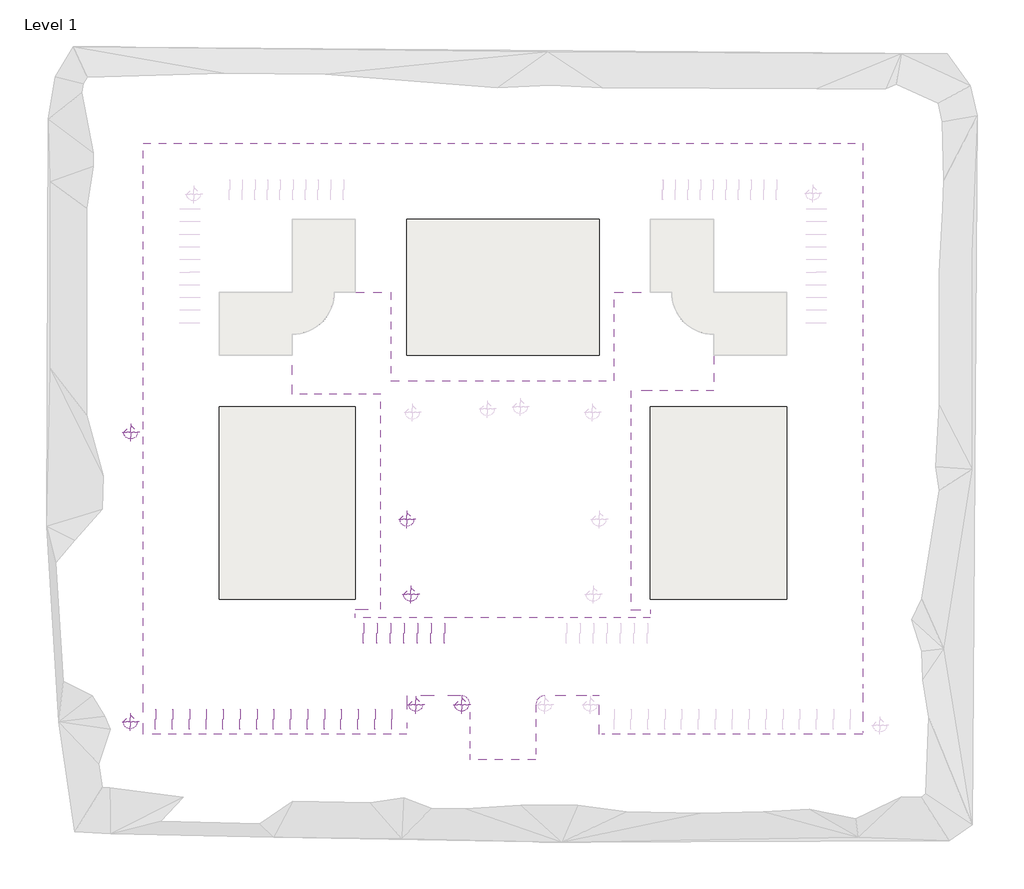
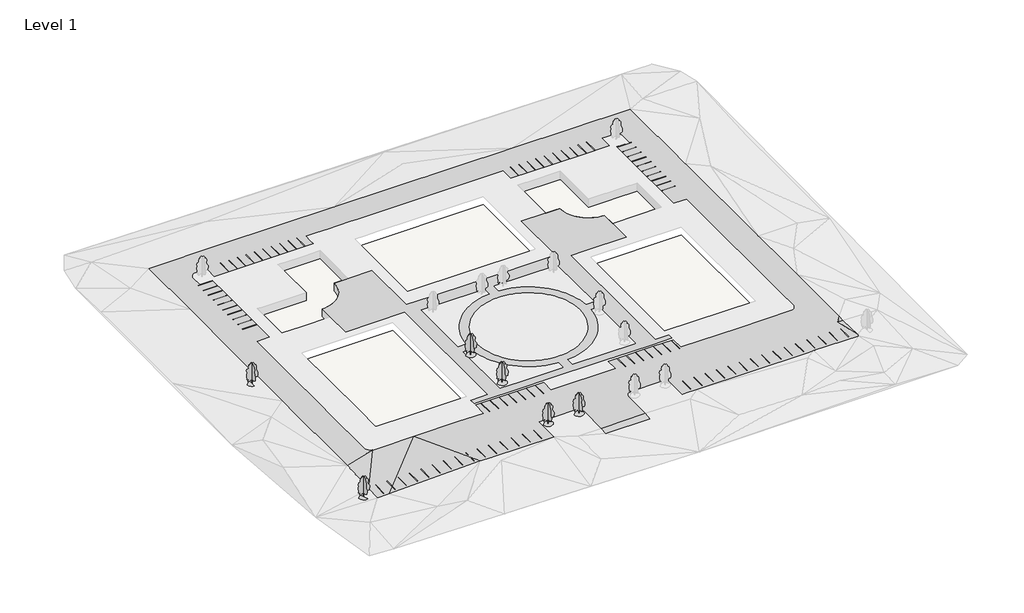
# One storey, part 1 of 3: 24 proxies, 6 geographic elements, 5 slabs.
"""IFC4 building model written with IfcOpenShell, lengths in millimetres."""

from ifc_helpers import new_model, si_unit, point, frame, frame_2d, origin, place, context, project, spatial, polyline, circle_curve, trimmed, segment, composite_curve, outline, extrude, triangles, transform, mapped, element, save
from components import m_parking_space_4800_x_2400mm_90_deg_2b7ae786, m_parking_space_4800_x_2400mm_90_deg_cf846cf7, m_rpc_tree_deciduous_red_ash_7_6_meters_40acba24

model = new_model("IFC4")

# Units and contexts
model_context = context("Model", 3, world=origin())
ifc_project = project(units=[si_unit("LENGTHUNIT", "METRE", prefix="MILLI")], contexts=[model_context])

# Site, building, storey
site = spatial("IfcSite", under=ifc_project)
building = spatial("IfcBuilding", under=site)
storey = spatial("IfcBuildingStorey", under=building, Name="Level 1", Elevation=0.0)

# Proxies
placement = place(None, origin())
element("IfcBuildingElementProxy", 1, Name="Building Element Proxy", at=placement, inside=storey, context=model_context, shape_type="Tessellation", body=[
    triangles([(-85535.6813232, -72322.6413208, 1983.1879601), (-81381.8232422, -72322.6413208, 2006.5802822), (-48930.6040283, -72322.6413208, 3049.9998779), (-45175.5681152, -72322.6413208, 3049.9998779), (-22999.6798462, -72322.6413208, 3049.9998779), (-22999.6798462, -69598.8029297, 3049.9998779), (-22999.6798462, -63177.6413818, 3049.9998779), (-16508.3272339, -63177.6413818, 3049.9998779), (-10154.9429443, -63177.6413818, 3049.9998779), (-9734.4715164, -63219.0574585, 3049.9998779), (-9330.1595673, -63341.7011353, 3049.9998779), (-8957.5433578, -63540.8703735, 3049.9998779), (-8630.942363, -63808.9051758, 3049.9998779), (-8362.9081421, -64135.5038452, 3049.9998779), (-8163.7406479, -64508.1229614, 3049.9998779), (-8041.093483, -64912.4331665, 3049.9998779), (-7999.6808945, -65332.9051758, 3049.9998779), (-7999.6808945, -75662.4746704, 3049.9998779), (-7999.6808945, -78418.6459717, 2673.7301125), (7616.3188293, -78418.6459717, 2673.7301125), (7616.3188293, -75662.4746704, 3049.9998779), (7616.3188293, -65332.9051758, 3049.9998779), (7657.7319992, -64912.4331665, 3049.9998779), (7780.3785828, -64508.1229614, 3049.9998779), (7979.546077, -64135.5038452, 3049.9998779), (8247.5802979, -63808.9051758, 3049.9998779), (8574.1812927, -63540.8703735, 3049.9998779), (8946.7975021, -63341.7011353, 3049.9998779), (9351.1100327, -63219.0574585, 3049.9998779), (9771.5802979, -63177.6413818, 3049.9998779), (19669.4412598, -63177.6413818, 3049.9998779), (22616.3195251, -63177.6413818, 3049.9998779), (22616.3195251, -72322.6413208, 3049.9998779), (23909.6359314, -72322.6413208, 3049.9998779), (27666.706604, -72322.6413208, 3049.9998779), (66812.228833, -72322.6413208, 3049.9998779), (69215.7286377, -72322.6413208, 3049.9998779), (85152.3186768, -72322.6413208, 3049.9998779), (85152.3186768, -71605.2292969, 3049.9998779), (85152.3186768, -62436.5610352, 2858.9560158), (85152.3186768, -60490.0798462, 3049.9998779), (85152.3186768, -53151.4626709, 3049.9998779), (85152.3186768, -34557.1511353, 3049.9998779), (85152.3186768, -26828.7577515, 3049.9998779), (85152.3186768, -10563.9423981, 3049.9998779), (85152.3186768, 34057.6467407, 3049.9998779), (85152.3186768, 67885.3586792, 3049.9998779), (43350.9678589, 67885.3586792, 3049.9998779), (-19981.6152283, 67885.3586792, 3049.9998779), (-60150.6587036, 67885.3586792, 3049.9998779), (-85535.6813232, 67885.3586792, 3049.9998779), (-85535.6813232, 42777.6354126, 3049.9998779), (-85535.6813232, 17541.3572021, 3049.9998779), (-85535.6813232, -14016.0200592, 3049.9998779), (-85535.6813232, -53825.1843384, 3049.9998779), (-85535.6813232, -67074.5988647, 2206.9487206), (-76390.6813843, 17541.3572021, 3049.9998779), (-71818.6813843, 17541.3572021, 3049.9998779), (-71818.6813843, 28075.6955933, 3049.9998779), (-71818.6813843, 44745.1385742, 3049.9998779), (-71818.6813843, 52541.3557251, 3049.9998779), (-75664.1257324, 52541.3557251, 3049.9998779), (-76390.6813843, 52541.3557251, 3049.9998779), (-76390.6813843, 56585.0949463, 3049.9998779), (-76349.2699585, 57005.5669556, 3049.9998779), (-76226.6216309, 57409.8771606, 3049.9998779), (-76027.4523926, 57782.4962769, 3049.9998779), (-75759.4175903, 58109.0949463, 3049.9998779), (-75432.8189209, 58377.1297485, 3049.9998779), (-75060.2044556, 58576.2989868, 3049.9998779), (-74655.8895996, 58698.9426636, 3049.9998779), (-74235.4175903, 58740.3587402, 3049.9998779), (-70191.68302, 58740.3587402, 3049.9998779), (-70191.68302, 57954.0206909, 3049.9998779), (-70191.68302, 54168.3587402, 3049.9998779), (-67067.1993164, 54168.3587402, 3049.9998779), (-37842.8319763, 54168.3587402, 3049.9998779), (-35191.6798462, 54168.3587402, 3049.9998779), (-35191.6798462, 56204.3786499, 3049.9998779), (-35191.6798462, 58740.3587402, 3049.9998779), (-31889.525592, 58740.3587402, 3049.9998779), (-27301.2963501, 58740.3587402, 3049.9998779), (-19739.2625793, 58740.3587402, 3049.9998779), (-17214.9375916, 58740.3587402, 3049.9998779), (34808.3195251, 58740.3587402, 3049.9998779), (34808.3195251, 54168.3587402, 3049.9998779), (41448.958374, 54168.3587402, 3049.9998779), (50660.0054443, 54168.3587402, 3049.9998779), (60301.2448608, 54168.3587402, 3049.9998779), (69808.3203735, 54168.3587402, 3049.9998779), (69808.3203735, 58740.3587402, 3049.9998779), (73852.0595947, 58740.3587402, 3049.9998779), (74272.5269531, 58698.9426636, 3049.9998779), (74676.8418091, 58576.2989868, 3049.9998779), (75049.4562744, 58377.1297485, 3049.9998779), (75376.0595947, 58109.0949463, 3049.9998779), (75644.0897461, 57782.4962769, 3049.9998779), (75843.2589844, 57409.8771606, 3049.9998779), (75965.907312, 57005.5669556, 3049.9998779), (76007.3187378, 56585.0949463, 3049.9998779), (76007.3187378, 52541.3557251, 3049.9998779), (71435.3187378, 52541.3557251, 3049.9998779), (71435.3187378, 45158.1180176, 3049.9998779), (71435.3187378, 17541.3572021, 3049.9998779), (76007.3187378, 17541.3572021, 3049.9998779), (76007.3187378, 6598.6321106, 3049.9998779), (76007.3187378, -34066.0741333, 3049.9998779), (76007.3187378, -40266.6444946, 3049.9998779), (76007.3187378, -48111.3796143, 3049.9998779), (75965.907312, -48531.8516235, 3049.9998779), (75843.2589844, -48936.1618286, 3049.9998779), (75644.0897461, -49308.7809448, 3049.9998779), (75376.0595947, -49635.3796143, 3049.9998779), (75049.4562744, -49903.4144165, 3049.9998779), (74676.8418091, -50102.5836548, 3049.9998779), (74272.5269531, -50225.2319824, 3049.9998779), (73852.0595947, -50266.6434082, 3049.9998779), (55536.4473267, -50266.6434082, 3049.9998779), (34808.3195251, -50266.6434082, 3049.9998779), (34808.3195251, -45694.6434082, 3049.9998779), (27601.8896301, -45694.6434082, 3049.9998779), (14380.2350372, -45694.6434082, 3049.9998779), (11808.3187683, -45694.6434082, 3049.9998779), (11808.3187683, -50266.6434082, 3049.9998779), (-11191.6808258, -50266.6434082, 3049.9998779), (-11191.6808258, -45694.6434082, 3049.9998779), (-16971.6419769, -45694.6434082, 3049.9998779), (-35191.6798462, -45694.6434082, 3049.9998779), (-35191.6798462, -50694.6405396, 3049.9998779), (-44268.6885864, -50694.6405396, 3049.9998779), (-60146.5705811, -50694.6405396, 3049.9998779), (-74235.4175903, -50694.6405396, 3049.9998779), (-74655.8895996, -50653.2291138, 3049.9998779), (-75060.2044556, -50530.585437, 3049.9998779), (-75432.8189209, -50331.4161987, 3049.9998779), (-75759.4175903, -50063.3813965, 3049.9998779), (-76027.4523926, -49736.7780762, 3049.9998779), (-76226.6216309, -49364.1636108, 3049.9998779), (-76349.2699585, -48959.8534058, 3049.9998779), (-76390.6813843, -48539.3813965, 3049.9998779), (-76390.6813843, -27227.4310913, 3049.9998779), (-76390.6813843, -22144.2111328, 3049.9998779), (-76390.6813843, -2590.5180405, 3049.9998779), (83304.0593994, -62594.9839233, 3049.9998779)], [[1, 2, 56], [56, 133, 55], [56, 2, 132], [3, 4, 130], [132, 2, 131], [130, 131, 3], [4, 129, 130], [131, 2, 3], [133, 56, 132], [138, 139, 55], [140, 141, 55], [139, 140, 55], [133, 134, 55], [136, 137, 55], [135, 136, 55], [134, 135, 55], [138, 55, 137], [55, 141, 54], [7, 4, 6], [11, 12, 125], [26, 13, 14], [125, 13, 26], [25, 14, 15], [12, 13, 125], [129, 7, 127], [129, 4, 7], [127, 128, 129], [7, 8, 127], [9, 10, 125], [9, 125, 8], [10, 11, 125], [126, 127, 125], [125, 127, 8], [6, 4, 5], [53, 59, 52], [52, 64, 51], [63, 64, 52], [53, 54, 143], [143, 57, 53], [59, 53, 57], [63, 60, 62], [60, 63, 52], [54, 142, 143], [54, 141, 142], [65, 66, 51], [51, 67, 68], [67, 51, 66], [65, 51, 64], [68, 69, 51], [71, 72, 51], [70, 71, 51], [69, 70, 51], [51, 72, 50], [59, 60, 52], [61, 62, 60], [57, 58, 59], [77, 78, 79], [74, 75, 76], [77, 50, 76], [79, 80, 77], [50, 73, 76], [77, 80, 50], [73, 50, 72], [73, 74, 76], [80, 49, 50], [83, 84, 49], [81, 82, 49], [49, 82, 83], [81, 49, 80], [84, 85, 49], [24, 15, 16], [18, 21, 22], [18, 19, 21], [17, 22, 23], [22, 17, 18], [24, 16, 23], [33, 34, 32], [19, 20, 21], [24, 25, 15], [124, 125, 26], [27, 28, 124], [26, 27, 124], [30, 31, 124], [124, 31, 32], [30, 124, 29], [124, 32, 121], [29, 124, 28], [14, 25, 26], [34, 35, 32], [117, 36, 37], [37, 144, 117], [35, 36, 118], [37, 39, 144], [39, 40, 144], [41, 42, 144], [40, 41, 144], [39, 37, 38], [42, 115, 144], [117, 118, 36], [117, 144, 116], [118, 119, 35], [114, 115, 42], [112, 113, 42], [111, 112, 42], [114, 42, 113], [116, 144, 115], [121, 32, 119], [42, 110, 111], [35, 119, 32], [120, 121, 119], [122, 124, 121], [124, 122, 123], [86, 87, 85], [101, 102, 103], [88, 89, 48], [85, 48, 49], [85, 87, 48], [89, 91, 48], [48, 87, 88], [47, 91, 92], [48, 91, 47], [94, 47, 93], [90, 91, 89], [47, 92, 93], [103, 104, 46], [106, 46, 105], [106, 107, 45], [46, 104, 105], [109, 42, 108], [45, 107, 44], [44, 107, 43], [110, 42, 109], [107, 108, 43], [43, 108, 42], [46, 106, 45], [97, 98, 47], [95, 96, 47], [97, 47, 96], [101, 46, 47], [101, 103, 46], [99, 100, 47], [47, 100, 101], [99, 47, 98], [95, 47, 94], [23, 16, 17]], closed=False),
])
element("IfcBuildingElementProxy", 2, Name="Building Element Proxy", at=placement, inside=storey, context=model_context, shape_type="Tessellation", body=[
    triangles([(-35191.6798462, -44694.6439819, 3049.9998779), (-16998.1438477, -44694.6439819, 3049.9998779), (-11191.6808258, -44694.6439819, 3049.9998779), (11808.3187683, -44694.6439819, 3049.9998779), (14077.7000153, -44694.6439819, 3049.9998779), (27740.5509338, -44694.6439819, 3049.9998779), (34808.3195251, -44694.6439819, 3049.9998779), (34808.3195251, -42819.2700806, 3049.9998779), (30133.6467224, -42819.2700806, 3049.9998779), (30133.6467224, -27435.9834778, 3049.9998779), (30133.6467224, 9180.7314789, 3049.9998779), (35210.9461121, 9180.7314789, 3049.9998779), (49808.3178955, 9180.7314789, 3049.9998779), (49808.3178955, 17541.3572021, 3049.9998779), (49808.3178955, 22541.3566589, 3049.9998779), (48828.1498169, 22589.5095337, 3049.9998779), (47857.4137207, 22733.5053955, 3049.9998779), (46905.4718262, 22971.9536316, 3049.9998779), (45981.4863647, 23302.5613586, 3049.9998779), (45094.3498169, 23722.14505, 3049.9998779), (44252.6151489, 24226.6607666, 3049.9998779), (43464.3841919, 24811.2529907, 3049.9998779), (42737.2518311, 25470.2895081, 3049.9998779), (42078.2129883, 26197.4241943, 3049.9998779), (41493.6207642, 26985.6551514, 3049.9998779), (40989.107373, 27827.3898193, 3049.9998779), (40569.5236816, 28714.5240417, 3049.9998779), (40238.9159546, 29638.5095032, 3049.9998779), (40000.4653931, 30590.4537231, 3049.9998779), (39856.4695313, 31561.1851685, 3049.9998779), (39808.3189819, 32541.3578979, 3049.9998779), (38450.1437439, 32541.3578979, 3049.9998779), (34808.3195251, 32541.3578979, 3049.9998779), (26168.9445374, 32541.3578979, 3049.9998779), (26168.9445374, 11541.3571564, 3049.9998779), (-2935.6202316, 11541.3571564, 3049.9998779), (-18488.44823, 11541.3571564, 3049.9998779), (-26831.0552856, 11541.3571564, 3049.9998779), (-26831.0552856, 32541.3578979, 3049.9998779), (-35191.6798462, 32541.3578979, 3049.9998779), (-40191.6816284, 32541.3578979, 3049.9998779), (-40239.8321777, 31561.1851685, 3049.9998779), (-40383.8280396, 30590.4537231, 3049.9998779), (-40622.2786011, 29638.5095032, 3049.9998779), (-40952.8863281, 28714.5240417, 3049.9998779), (-41372.4700195, 27827.3898193, 3049.9998779), (-41876.9834106, 26985.6551514, 3049.9998779), (-42461.5756348, 26197.4241943, 3049.9998779), (-43120.6144775, 25470.2895081, 3049.9998779), (-43847.7468384, 24811.2529907, 3049.9998779), (-44635.9777954, 24226.6607666, 3049.9998779), (-45477.7124634, 23722.14505, 3049.9998779), (-46364.8443604, 23302.5613586, 3049.9998779), (-47288.8344727, 22971.9536316, 3049.9998779), (-48240.7763672, 22733.5053955, 3049.9998779), (-49211.5078125, 22589.5095337, 3049.9998779), (-50191.680542, 22541.3566589, 3049.9998779), (-50191.680542, 17541.3572021, 3049.9998779), (-50191.680542, 8305.3575851, 3049.9998779), (-29191.6809631, 8305.3575851, 3049.9998779), (-29191.6809631, -42694.6404785, 3049.9998779), (-35191.6798462, -42694.6404785, 3049.9998779), (-21426.7688782, -15958.6421814, 3049.9998779), (-24426.7694824, -15958.6421814, 3049.9998779), (-24426.7694824, 6776.4450943, 3049.9998779), (-18362.1733795, 6776.4450943, 3049.9998779), (-1691.6808987, 6776.4450943, 3049.9998779), (-1691.6808987, 3776.4450714, 3049.9998779), (-3132.8497627, 3625.2011055, 3049.9998779), (-4560.3902435, 3376.2636841, 3049.9998779), (-5967.6880646, 3030.7859344, 3049.9998779), (-7348.222403, 2590.3689217, 3049.9998779), (-8695.5959747, 2057.0529282, 3049.9998779), (-10003.5661377, 1433.3094601, 3049.9998779), (-11266.0716339, 722.0285299, 3049.9998779), (-12477.2639832, -73.4940514, 3049.9998779), (-13631.5295746, -949.5721264, 3049.9998779), (-14723.5210602, -1902.1463951, 3049.9998779), (-15748.177121, -2926.8027466, 3049.9998779), (-16700.751535, -4018.7939415, 3049.9998779), (-17576.8294556, -5173.0592422, 3049.9998779), (-18027.3240509, -5858.9429581, 3049.9998779), (-18372.351828, -6384.2515915, 3049.9998779), (-19083.6328308, -7646.7576691, 3049.9998779), (-19707.3761536, -8954.727832, 3049.9998779), (-20240.6924377, -10302.1014038, 3049.9998779), (-20681.1097412, -11682.6357422, 3049.9998779), (-21026.5863281, -13089.9335632, 3049.9998779), (-21275.5246216, -14517.4743347, 3049.9998779), (-21426.7688782, -18958.6427856, 3049.9998779), (-21275.5246216, -20399.8106323, 3049.9998779), (-21026.5863281, -21827.3514038, 3049.9998779), (-20681.1097412, -23234.6492249, 3049.9998779), (-20240.6924377, -24615.1835632, 3049.9998779), (-19707.3761536, -25962.557135, 3049.9998779), (-19083.6328308, -27270.5284607, 3049.9998779), (-18372.351828, -28533.0327942, 3049.9998779), (-17576.8294556, -29744.2263062, 3049.9998779), (-17387.7409973, -29993.3576111, 3049.9998779), (-16700.751535, -30898.4907349, 3049.9998779), (-15748.177121, -31990.4822205, 3049.9998779), (-14723.5210602, -33015.1382813, 3049.9998779), (-13631.5295746, -33967.7126953, 3049.9998779), (-12477.2639832, -34843.7917786, 3049.9998779), (-11266.0716339, -35639.3129883, 3049.9998779), (-10003.5661377, -36350.5951538, 3049.9998779), (-8695.5959747, -36974.3384766, 3049.9998779), (-7348.222403, -37507.6547607, 3049.9998779), (-5967.6880646, -37948.0720642, 3049.9998779), (-4560.3902435, -38293.5486511, 3049.9998779), (-3132.8497627, -38542.4869446, 3049.9998779), (-1691.6808987, -38693.7312012, 3049.9998779), (-1691.6808987, -41693.72948, 3049.9998779), (-17077.6703888, -41693.72948, 3049.9998779), (-24426.7694824, -41693.72948, 3049.9998779), (-24426.7694824, -18958.6427856, 3049.9998779), (1308.3191242, 3776.4450714, 3049.9998779), (1308.3191242, 6776.4450943, 3049.9998779), (24043.4068359, 6776.4450943, 3049.9998779), (24043.4068359, -15958.6421814, 3049.9998779), (21043.4062317, -15958.6421814, 3049.9998779), (20892.1619751, -14517.4743347, 3049.9998779), (20643.2260071, -13089.9335632, 3049.9998779), (20297.7470947, -11682.6357422, 3049.9998779), (19857.3297913, -10302.1014038, 3049.9998779), (19324.0146698, -8954.727832, 3049.9998779), (18700.271347, -7646.7576691, 3049.9998779), (17988.9903442, -6384.2515915, 3049.9998779), (17193.4679718, -5173.0592422, 3049.9998779), (16317.3900513, -4018.7939415, 3049.9998779), (15364.8156372, -2926.8027466, 3049.9998779), (14340.1584137, -1902.1463951, 3049.9998779), (13248.1680908, -949.5721264, 3049.9998779), (12093.9024994, -73.4940514, 3049.9998779), (10882.7101501, 722.0285299, 3049.9998779), (9620.2040726, 1433.3094601, 3049.9998779), (8312.2339096, 2057.0529282, 3049.9998779), (6964.8603378, 2590.3689217, 3049.9998779), (5584.3259995, 3030.7859344, 3049.9998779), (4177.0284691, 3376.2636841, 3049.9998779), (2749.4876976, 3625.2011055, 3049.9998779), (21043.4062317, -18958.6427856, 3049.9998779), (24043.4068359, -18958.6427856, 3049.9998779), (24043.4068359, -41693.72948, 3049.9998779), (13169.8217102, -41693.72948, 3049.9998779), (1308.3191242, -41693.72948, 3049.9998779), (1308.3191242, -38693.7312012, 3049.9998779), (2749.4876976, -38542.4869446, 3049.9998779), (4177.0284691, -38293.5486511, 3049.9998779), (5584.3259995, -37948.0720642, 3049.9998779), (6964.8603378, -37507.6547607, 3049.9998779), (8312.2339096, -36974.3384766, 3049.9998779), (9620.2040726, -36350.5951538, 3049.9998779), (10882.7101501, -35639.3129883, 3049.9998779), (11262.6544006, -35389.7631042, 3049.9998779), (12093.9024994, -34843.7917786, 3049.9998779), (13248.1680908, -33967.7126953, 3049.9998779), (14340.1584137, -33015.1382813, 3049.9998779), (15364.8156372, -31990.4822205, 3049.9998779), (16317.3900513, -30898.4907349, 3049.9998779), (17193.4679718, -29744.2263062, 3049.9998779), (17988.9903442, -28533.0327942, 3049.9998779), (18700.271347, -27270.5284607, 3049.9998779), (19324.0146698, -25962.557135, 3049.9998779), (19857.3297913, -24615.1835632, 3049.9998779), (20297.7470947, -23234.6492249, 3049.9998779), (20643.2260071, -21827.3514038, 3049.9998779), (20892.1619751, -20399.8106323, 3049.9998779), (-18479.6813232, -17458.6424835, 3049.9998779), (-18430.8936035, -16123.7041992, 3049.9998779), (-18284.7920563, -14795.888736, 3049.9998779), (-18042.1568665, -13482.2793823, 3049.9998779), (-17845.2584198, -12729.1323303, 3049.9998779), (-17704.2809784, -12189.8861755, 3049.9998779), (-17272.9677704, -10925.6040436, 3049.9998779), (-16750.5182648, -9696.1785049, 3049.9998779), (-16139.7206635, -8508.169043, 3049.9998779), (-15443.8329071, -7367.9142242, 3049.9998779), (-14666.5687225, -6281.4979797, 3049.9998779), (-13812.0743683, -5254.7164673, 3049.9998779), (-12884.9100311, -4293.0478409, 3049.9998779), (-11890.0207581, -3401.623764, 3049.9998779), (-10832.7166901, -2585.1997604, 3049.9998779), (-9718.6375992, -1848.1322502, 3049.9998779), (-8553.7284714, -1194.3534061, 3049.9998779), (-7344.2040436, -627.3516054, 3049.9998779), (-6096.5179916, -150.152054, 3049.9998779), (-4817.3265953, 234.699228, 3049.9998779), (-3513.4556007, 525.1488685, 3049.9998779), (-2191.8615601, 719.6472073, 3049.9998779), (-859.5957144, 817.156517, 3049.9998779), (308.8186864, 817.156517, 3049.9998779), (476.2338309, 817.156517, 3049.9998779), (1808.4997856, 719.6472073, 3049.9998779), (3130.0938263, 525.1488685, 3049.9998779), (4433.9648209, 234.699228, 3049.9998779), (5713.1559265, -150.152054, 3049.9998779), (6960.8419785, -627.3516054, 3049.9998779), (8170.3664063, -1194.3534061, 3049.9998779), (9335.2761154, -1848.1322502, 3049.9998779), (10449.3552063, -2585.1997604, 3049.9998779), (11506.6592743, -3401.623764, 3049.9998779), (12501.5473846, -4293.0478409, 3049.9998779), (13428.7128845, -5254.7164673, 3049.9998779), (14283.2072388, -6281.4979797, 3049.9998779), (15060.4714233, -7367.9142242, 3049.9998779), (15756.3591797, -8508.169043, 3049.9998779), (16367.156781, -9696.1785049, 3049.9998779), (16889.6051239, -10925.6040436, 3049.9998779), (17320.9183319, -12189.8861755, 3049.9998779), (17658.79422, -13482.2793823, 3049.9998779), (17901.4305725, -14795.888736, 3049.9998779), (18047.5321198, -16123.7041992, 3049.9998779), (18096.3186768, -17458.6424835, 3049.9998779), (18047.5321198, -18793.5807678, 3049.9998779), (17901.4305725, -20121.3973938, 3049.9998779), (17658.79422, -21435.0055847, 3049.9998779), (17320.9183319, -22727.3987915, 3049.9998779), (16889.6051239, -23991.6820862, 3049.9998779), (16367.156781, -25221.1070435, 3049.9998779), (15756.3591797, -26409.1159241, 3049.9998779), (15060.4714233, -27549.3719055, 3049.9998779), (14283.2072388, -28635.7869873, 3049.9998779), (13428.7128845, -29662.5684998, 3049.9998779), (12501.5473846, -30624.2377075, 3049.9998779), (11506.6592743, -31515.6623657, 3049.9998779), (10449.3552063, -32332.0846252, 3049.9998779), (10356.2399597, -32393.6901672, 3049.9998779), (9335.2761154, -33069.1535889, 3049.9998779), (8170.3664063, -33722.9322876, 3049.9998779), (6960.8419785, -34289.9325623, 3049.9998779), (5713.1559265, -34767.133667, 3049.9998779), (4433.9648209, -35151.9845947, 3049.9998779), (3130.0938263, -35442.4343079, 3049.9998779), (1808.4997856, -35636.9317383, 3049.9998779), (476.2338309, -35734.4420654, 3049.9998779), (-859.5957144, -35734.4420654, 3049.9998779), (-2191.8615601, -35636.9317383, 3049.9998779), (-3513.4556007, -35442.4343079, 3049.9998779), (-4817.3265953, -35151.9845947, 3049.9998779), (-6096.5179916, -34767.133667, 3049.9998779), (-7344.2040436, -34289.9325623, 3049.9998779), (-8553.7284714, -33722.9322876, 3049.9998779), (-9718.6375992, -33069.1535889, 3049.9998779), (-10832.7166901, -32332.0846252, 3049.9998779), (-11890.0207581, -31515.6623657, 3049.9998779), (-12884.9100311, -30624.2377075, 3049.9998779), (-13812.0743683, -29662.5684998, 3049.9998779), (-14666.5687225, -28635.7869873, 3049.9998779), (-15443.8329071, -27549.3719055, 3049.9998779), (-16139.7206635, -26409.1159241, 3049.9998779), (-16750.5182648, -25221.1070435, 3049.9998779), (-17272.9677704, -23991.6820862, 3049.9998779), (-17569.8531372, -23121.439856, 3049.9998779), (-17704.2809784, -22727.3987915, 3049.9998779), (-18042.1568665, -21435.0055847, 3049.9998779), (-18284.7920563, -20121.3973938, 3049.9998779), (-18430.8936035, -18793.5807678, 3049.9998779)], [[62, 1, 61], [116, 61, 115], [2, 114, 115], [2, 115, 61], [93, 256, 92], [254, 93, 94], [61, 116, 64], [253, 94, 95], [97, 251, 96], [250, 98, 99], [98, 250, 97], [253, 95, 252], [93, 254, 255], [254, 94, 253], [252, 95, 96], [61, 1, 2], [256, 93, 255], [64, 116, 90], [90, 258, 169], [258, 90, 91], [63, 90, 169], [63, 64, 90], [170, 89, 63], [89, 171, 88], [170, 63, 169], [257, 91, 92], [258, 91, 257], [171, 172, 88], [87, 172, 173], [88, 172, 87], [170, 171, 89], [92, 256, 257], [87, 173, 174], [64, 60, 61], [113, 114, 3], [107, 108, 242], [244, 105, 106], [243, 106, 107], [244, 104, 105], [109, 241, 108], [239, 110, 111], [237, 112, 236], [238, 111, 112], [239, 240, 110], [237, 238, 112], [239, 111, 238], [112, 113, 147], [110, 240, 109], [3, 146, 113], [240, 241, 109], [100, 101, 248], [101, 247, 248], [247, 101, 102], [100, 248, 249], [252, 96, 251], [250, 99, 249], [97, 250, 251], [249, 99, 100], [244, 245, 104], [106, 243, 244], [243, 107, 242], [108, 241, 242], [247, 102, 246], [245, 103, 104], [246, 103, 245], [246, 102, 103], [3, 114, 2], [58, 59, 60], [60, 64, 65], [38, 65, 37], [65, 38, 60], [60, 52, 58], [57, 58, 56], [55, 56, 58], [55, 58, 54], [50, 60, 38], [85, 176, 84], [84, 177, 83], [175, 85, 86], [66, 37, 65], [82, 83, 178], [87, 174, 86], [53, 54, 58], [52, 60, 51], [53, 58, 52], [50, 38, 49], [48, 38, 47], [38, 48, 49], [60, 50, 51], [45, 46, 40], [43, 44, 40], [45, 40, 44], [41, 42, 40], [40, 42, 43], [38, 46, 47], [40, 46, 38], [40, 38, 39], [177, 84, 176], [178, 81, 82], [178, 83, 177], [80, 81, 179], [180, 79, 80], [181, 78, 79], [178, 179, 81], [176, 85, 175], [181, 79, 180], [182, 77, 78], [182, 78, 181], [76, 77, 183], [183, 77, 182], [76, 183, 184], [74, 184, 185], [180, 80, 179], [76, 184, 75], [184, 74, 75], [73, 185, 186], [72, 186, 187], [185, 73, 74], [73, 186, 72], [187, 71, 72], [36, 37, 66], [187, 188, 71], [188, 189, 70], [190, 191, 68], [189, 190, 69], [70, 189, 69], [36, 66, 67], [117, 67, 68], [36, 67, 118], [190, 68, 69], [68, 191, 192], [188, 70, 71], [174, 175, 86], [147, 236, 112], [147, 148, 235], [234, 148, 149], [236, 147, 235], [150, 233, 149], [234, 235, 148], [149, 233, 234], [4, 145, 146], [147, 113, 146], [5, 145, 4], [152, 153, 230], [153, 154, 229], [152, 231, 151], [150, 151, 232], [146, 3, 4], [229, 154, 155], [233, 150, 232], [231, 152, 230], [151, 231, 232], [227, 228, 156], [226, 227, 157], [229, 155, 228], [153, 229, 230], [157, 158, 226], [158, 225, 226], [159, 225, 158], [224, 225, 159], [161, 222, 223], [223, 224, 160], [160, 224, 159], [157, 227, 156], [156, 228, 155], [145, 5, 144], [161, 162, 222], [162, 221, 222], [163, 221, 162], [221, 163, 220], [219, 164, 165], [164, 219, 220], [163, 164, 220], [161, 223, 160], [6, 9, 144], [9, 6, 7], [7, 8, 9], [219, 165, 218], [10, 144, 9], [144, 10, 143], [6, 144, 5], [218, 165, 166], [218, 166, 217], [215, 216, 168], [217, 167, 216], [211, 212, 123], [213, 214, 121], [212, 213, 122], [215, 142, 214], [168, 142, 215], [142, 143, 120], [142, 121, 214], [123, 212, 122], [120, 121, 142], [121, 122, 213], [143, 10, 120], [168, 216, 167], [166, 167, 217], [211, 123, 124], [201, 202, 133], [132, 202, 203], [133, 202, 132], [137, 198, 199], [199, 200, 136], [201, 134, 200], [201, 133, 134], [203, 204, 131], [129, 205, 206], [127, 207, 208], [128, 206, 207], [204, 205, 130], [203, 131, 132], [131, 204, 130], [130, 205, 129], [208, 209, 126], [192, 193, 117], [194, 195, 141], [193, 194, 117], [118, 67, 117], [141, 117, 194], [195, 140, 141], [195, 196, 140], [117, 68, 192], [139, 196, 197], [136, 200, 135], [200, 134, 135], [199, 136, 137], [139, 197, 138], [138, 197, 198], [138, 198, 137], [196, 139, 140], [126, 127, 208], [209, 125, 126], [124, 125, 210], [210, 211, 124], [206, 128, 129], [127, 128, 207], [35, 118, 119], [125, 209, 210], [35, 11, 12], [11, 35, 119], [24, 35, 12], [120, 11, 119], [120, 10, 11], [14, 12, 13], [16, 17, 14], [14, 15, 16], [14, 20, 12], [17, 18, 14], [29, 30, 32], [27, 28, 33], [29, 33, 28], [33, 26, 27], [32, 33, 29], [31, 32, 30], [33, 34, 35], [22, 12, 21], [18, 19, 14], [12, 20, 21], [26, 33, 35], [25, 35, 24], [24, 12, 23], [25, 26, 35], [23, 12, 22], [14, 19, 20], [35, 36, 118]], closed=False),
])
m_parking_space_4800_x_2400mm_90_deg_shape = m_parking_space_4800_x_2400mm_90_deg_2b7ae786(model_context)
element("IfcBuildingElementProxy", 3, Name="M_Parking Space : 4800 x 2400mm - 90 deg", ObjectType="M_Parking Space : 4800 x 2400mm - 90 deg", at=placement, inside=storey, context=model_context, shape_type="MappedRepresentation", body=[
    mapped(m_parking_space_4800_x_2400mm_90_deg_shape, transform((-14091.6809312, -45954.6449904, 3050.7803686), x_axis=(1.0, 0.0, 0.0), y_axis=(0.0, 1.0, 0.0), z_axis=(0.0, 0.0, 1.0))),
])
element("IfcBuildingElementProxy", 4, Name="M_Parking Space : 4800 x 2400mm - 90 deg", ObjectType="M_Parking Space : 4800 x 2400mm - 90 deg", at=placement, inside=storey, context=model_context, shape_type="MappedRepresentation", body=[
    mapped(m_parking_space_4800_x_2400mm_90_deg_shape, transform((-17291.6809312, -45954.6449904, 3050.7803686), x_axis=(1.0, 0.0, 0.0), y_axis=(0.0, 1.0, 0.0), z_axis=(0.0, 0.0, 1.0))),
])
element("IfcBuildingElementProxy", 5, Name="M_Parking Space : 4800 x 2400mm - 90 deg", ObjectType="M_Parking Space : 4800 x 2400mm - 90 deg", at=placement, inside=storey, context=model_context, shape_type="MappedRepresentation", body=[
    mapped(m_parking_space_4800_x_2400mm_90_deg_shape, transform((-20491.6809312, -45954.6449904, 3050.7803686), x_axis=(1.0, 0.0, 0.0), y_axis=(0.0, 1.0, 0.0), z_axis=(0.0, 0.0, 1.0))),
])
element("IfcBuildingElementProxy", 6, Name="M_Parking Space : 4800 x 2400mm - 90 deg", ObjectType="M_Parking Space : 4800 x 2400mm - 90 deg", at=placement, inside=storey, context=model_context, shape_type="MappedRepresentation", body=[
    mapped(m_parking_space_4800_x_2400mm_90_deg_shape, transform((-23691.6809312, -45954.6449904, 3050.7803686), x_axis=(1.0, 0.0, 0.0), y_axis=(0.0, 1.0, 0.0), z_axis=(0.0, 0.0, 1.0))),
])
element("IfcBuildingElementProxy", 7, Name="M_Parking Space : 4800 x 2400mm - 90 deg", ObjectType="M_Parking Space : 4800 x 2400mm - 90 deg", at=placement, inside=storey, context=model_context, shape_type="MappedRepresentation", body=[
    mapped(m_parking_space_4800_x_2400mm_90_deg_shape, transform((-26891.6809312, -45954.6449904, 3050.7803686), x_axis=(1.0, 0.0, 0.0), y_axis=(0.0, 1.0, 0.0), z_axis=(0.0, 0.0, 1.0))),
])
element("IfcBuildingElementProxy", 8, Name="M_Parking Space : 4800 x 2400mm - 90 deg", ObjectType="M_Parking Space : 4800 x 2400mm - 90 deg", at=placement, inside=storey, context=model_context, shape_type="MappedRepresentation", body=[
    mapped(m_parking_space_4800_x_2400mm_90_deg_shape, transform((-30091.6809312, -45954.6449904, 3050.7803686), x_axis=(1.0, 0.0, 0.0), y_axis=(0.0, 1.0, 0.0), z_axis=(0.0, 0.0, 1.0))),
])
element("IfcBuildingElementProxy", 9, Name="M_Parking Space : 4800 x 2400mm - 90 deg", ObjectType="M_Parking Space : 4800 x 2400mm - 90 deg", at=placement, inside=storey, context=model_context, shape_type="MappedRepresentation", body=[
    mapped(m_parking_space_4800_x_2400mm_90_deg_shape, transform((-33291.6809312, -45954.6449904, 3050.7803686), x_axis=(1.0, 0.0, 0.0), y_axis=(0.0, 1.0, 0.0), z_axis=(0.0, 0.0, 1.0))),
])
m_parking_space_4800_x_2400mm_90_deg_2_shape = m_parking_space_4800_x_2400mm_90_deg_cf846cf7(model_context)
element("IfcBuildingElementProxy", 10, Name="M_Parking Space : 4800 x 2400mm - 90 deg", ObjectType="M_Parking Space : 4800 x 2400mm - 90 deg", at=placement, inside=storey, context=model_context, shape_type="MappedRepresentation", body=[
    mapped(m_parking_space_4800_x_2400mm_90_deg_2_shape, transform((-26591.6809312, -71177.6426237, 3050.7803686), x_axis=(1.0, 0.0, 0.0), y_axis=(0.0, 1.0, 0.0), z_axis=(0.0, 0.0, 1.0))),
])
element("IfcBuildingElementProxy", 11, Name="M_Parking Space : 4800 x 2400mm - 90 deg", ObjectType="M_Parking Space : 4800 x 2400mm - 90 deg", at=placement, inside=storey, context=model_context, shape_type="MappedRepresentation", body=[
    mapped(m_parking_space_4800_x_2400mm_90_deg_2_shape, transform((-30591.6809312, -71177.6426237, 3050.7803686), x_axis=(1.0, 0.0, 0.0), y_axis=(0.0, 1.0, 0.0), z_axis=(0.0, 0.0, 1.0))),
])
element("IfcBuildingElementProxy", 12, Name="M_Parking Space : 4800 x 2400mm - 90 deg", ObjectType="M_Parking Space : 4800 x 2400mm - 90 deg", at=placement, inside=storey, context=model_context, shape_type="MappedRepresentation", body=[
    mapped(m_parking_space_4800_x_2400mm_90_deg_2_shape, transform((-34591.6809312, -71177.6426237, 3050.7803686), x_axis=(1.0, 0.0, 0.0), y_axis=(0.0, 1.0, 0.0), z_axis=(0.0, 0.0, 1.0))),
])
element("IfcBuildingElementProxy", 13, Name="M_Parking Space : 4800 x 2400mm - 90 deg", ObjectType="M_Parking Space : 4800 x 2400mm - 90 deg", at=placement, inside=storey, context=model_context, shape_type="MappedRepresentation", body=[
    mapped(m_parking_space_4800_x_2400mm_90_deg_2_shape, transform((-38591.6809312, -71177.6426237, 3050.7803686), x_axis=(1.0, 0.0, 0.0), y_axis=(0.0, 1.0, 0.0), z_axis=(0.0, 0.0, 1.0))),
])
element("IfcBuildingElementProxy", 14, Name="M_Parking Space : 4800 x 2400mm - 90 deg", ObjectType="M_Parking Space : 4800 x 2400mm - 90 deg", at=placement, inside=storey, context=model_context, shape_type="MappedRepresentation", body=[
    mapped(m_parking_space_4800_x_2400mm_90_deg_2_shape, transform((-42591.6809312, -71177.6426237, 3050.7803686), x_axis=(1.0, 0.0, 0.0), y_axis=(0.0, 1.0, 0.0), z_axis=(0.0, 0.0, 1.0))),
])
element("IfcBuildingElementProxy", 15, Name="M_Parking Space : 4800 x 2400mm - 90 deg", ObjectType="M_Parking Space : 4800 x 2400mm - 90 deg", at=placement, inside=storey, context=model_context, shape_type="MappedRepresentation", body=[
    mapped(m_parking_space_4800_x_2400mm_90_deg_2_shape, transform((-46591.6809312, -71177.6426237, 3050.7803686), x_axis=(1.0, 0.0, 0.0), y_axis=(0.0, 1.0, 0.0), z_axis=(0.0, 0.0, 1.0))),
])
element("IfcBuildingElementProxy", 16, Name="M_Parking Space : 4800 x 2400mm - 90 deg", ObjectType="M_Parking Space : 4800 x 2400mm - 90 deg", at=placement, inside=storey, context=model_context, shape_type="MappedRepresentation", body=[
    mapped(m_parking_space_4800_x_2400mm_90_deg_2_shape, transform((-50591.6809312, -71177.6426237, 3033.17615), x_axis=(0.999973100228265, 0.0, 0.007334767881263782), y_axis=(-2.7467277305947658e-05, 0.9999929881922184, 0.0037447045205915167), z_axis=(-0.007334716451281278, -0.003744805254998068, 0.9999660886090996))),
])
element("IfcBuildingElementProxy", 17, Name="M_Parking Space : 4800 x 2400mm - 90 deg", ObjectType="M_Parking Space : 4800 x 2400mm - 90 deg", at=placement, inside=storey, context=model_context, shape_type="MappedRepresentation", body=[
    mapped(m_parking_space_4800_x_2400mm_90_deg_2_shape, transform((-54591.6809312, -71177.6426237, 2887.8486054), x_axis=(0.9994834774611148, 0.0, 0.0321368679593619), y_axis=(-0.0005355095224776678, 0.9998611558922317, 0.01665479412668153), z_axis=(-0.032132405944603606, -0.016663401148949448, 0.9993447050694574))),
])
element("IfcBuildingElementProxy", 18, Name="M_Parking Space : 4800 x 2400mm - 90 deg", ObjectType="M_Parking Space : 4800 x 2400mm - 90 deg", at=placement, inside=storey, context=model_context, shape_type="MappedRepresentation", body=[
    mapped(m_parking_space_4800_x_2400mm_90_deg_2_shape, transform((-58591.6809312, -71177.6426237, 2759.2347016), x_axis=(0.9994834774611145, 0.0, 0.03213686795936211), y_axis=(-0.0005355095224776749, 0.9998611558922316, 0.01665479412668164), z_axis=(-0.03213240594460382, -0.016663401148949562, 0.9993447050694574))),
])
element("IfcBuildingElementProxy", 19, Name="M_Parking Space : 4800 x 2400mm - 90 deg", ObjectType="M_Parking Space : 4800 x 2400mm - 90 deg", at=placement, inside=storey, context=model_context, shape_type="MappedRepresentation", body=[
    mapped(m_parking_space_4800_x_2400mm_90_deg_2_shape, transform((-62591.6809312, -71177.6426237, 2630.6207978), x_axis=(0.9994834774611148, 0.0, 0.03213686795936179), y_axis=(-0.0005355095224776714, 0.9998611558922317, 0.016654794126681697), z_axis=(-0.032132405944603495, -0.016663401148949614, 0.9993447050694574))),
])
element("IfcBuildingElementProxy", 20, Name="M_Parking Space : 4800 x 2400mm - 90 deg", ObjectType="M_Parking Space : 4800 x 2400mm - 90 deg", at=placement, inside=storey, context=model_context, shape_type="MappedRepresentation", body=[
    mapped(m_parking_space_4800_x_2400mm_90_deg_2_shape, transform((-66591.6809312, -71177.6426237, 2502.0068939), x_axis=(0.9994834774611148, 0.0, 0.0321368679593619), y_axis=(-0.0005355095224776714, 0.9998611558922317, 0.01665479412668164), z_axis=(-0.032132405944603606, -0.01666340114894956, 0.9993447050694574))),
])
element("IfcBuildingElementProxy", 21, Name="M_Parking Space : 4800 x 2400mm - 90 deg", ObjectType="M_Parking Space : 4800 x 2400mm - 90 deg", at=placement, inside=storey, context=model_context, shape_type="MappedRepresentation", body=[
    mapped(m_parking_space_4800_x_2400mm_90_deg_2_shape, transform((-70591.6809312, -71177.6426237, 2373.3929901), x_axis=(0.9994834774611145, 0.0, 0.032136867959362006), y_axis=(-0.0005355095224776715, 0.9998611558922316, 0.016654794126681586), z_axis=(-0.03213240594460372, -0.016663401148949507, 0.9993447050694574))),
])
element("IfcBuildingElementProxy", 22, Name="M_Parking Space : 4800 x 2400mm - 90 deg", ObjectType="M_Parking Space : 4800 x 2400mm - 90 deg", at=placement, inside=storey, context=model_context, shape_type="MappedRepresentation", body=[
    mapped(m_parking_space_4800_x_2400mm_90_deg_2_shape, transform((-74591.6809312, -71177.6426237, 2244.7790863), x_axis=(0.9994834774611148, 0.0, 0.0321368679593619), y_axis=(-0.0005355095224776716, 0.9998611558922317, 0.01665479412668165), z_axis=(-0.032132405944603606, -0.016663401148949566, 0.9993447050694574))),
])
element("IfcBuildingElementProxy", 23, Name="M_Parking Space : 4800 x 2400mm - 90 deg", ObjectType="M_Parking Space : 4800 x 2400mm - 90 deg", at=placement, inside=storey, context=model_context, shape_type="MappedRepresentation", body=[
    mapped(m_parking_space_4800_x_2400mm_90_deg_2_shape, transform((-78591.6809312, -71177.6426237, 2154.6930351), x_axis=(0.9998706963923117, 0.0, 0.016080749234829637), y_axis=(-0.0004696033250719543, 0.9995735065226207, 0.029199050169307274), z_axis=(-0.016073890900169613, -0.029202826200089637, 0.9994442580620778))),
])
element("IfcBuildingElementProxy", 24, Name="M_Parking Space : 4800 x 2400mm - 90 deg", ObjectType="M_Parking Space : 4800 x 2400mm - 90 deg", at=placement, inside=storey, context=model_context, shape_type="MappedRepresentation", body=[
    mapped(m_parking_space_4800_x_2400mm_90_deg_2_shape, transform((-82591.6809312, -71177.6426237, 2049.4695724), x_axis=(0.9999705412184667, 0.0, 0.007675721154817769), y_axis=(-0.00035036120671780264, 0.9989577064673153, 0.045644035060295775), z_axis=(-0.007667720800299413, -0.045645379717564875, 0.9989282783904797))),
])

# Geographic elements
m_rpc_tree_deciduous_red_ash_7_6_meters_shape = m_rpc_tree_deciduous_red_ash_7_6_meters_40acba24(model_context)
element("IfcGeographicElement", 25, ObjectType="M_RPC Tree - Deciduous : Red Ash - 7.6 Meters", at=placement, inside=storey, context=model_context, shape_type="MappedRepresentation", body=[
    mapped(m_rpc_tree_deciduous_red_ash_7_6_meters_shape, transform((-22999.6809312, -21358.6426237, 3050.0), x_axis=(1.0, 0.0, 0.0), y_axis=(0.0, 1.0, 0.0), z_axis=(0.0, 0.0, 1.0))),
])
element("IfcGeographicElement", 26, ObjectType="M_RPC Tree - Deciduous : Red Ash - 7.6 Meters", at=placement, inside=storey, context=model_context, shape_type="MappedRepresentation", body=[
    mapped(m_rpc_tree_deciduous_red_ash_7_6_meters_shape, transform((-22091.6809312, -39158.6426237, 3050.0), x_axis=(1.0, 0.0, 0.0), y_axis=(0.0, 1.0, 0.0), z_axis=(0.0, 0.0, 1.0))),
])
element("IfcGeographicElement", 27, ObjectType="M_RPC Tree - Deciduous : Red Ash - 7.6 Meters", at=placement, inside=storey, context=model_context, shape_type="MappedRepresentation", body=[
    mapped(m_rpc_tree_deciduous_red_ash_7_6_meters_shape, transform((-88535.6809312, -650.6426237, 2636.2389452), x_axis=(1.0, 0.0, 0.0), y_axis=(0.0, 1.0, 0.0), z_axis=(0.0, 0.0, 1.0))),
])
element("IfcGeographicElement", 28, ObjectType="M_RPC Tree - Deciduous : Red Ash - 7.6 Meters", at=placement, inside=storey, context=model_context, shape_type="MappedRepresentation", body=[
    mapped(m_rpc_tree_deciduous_red_ash_7_6_meters_shape, transform((-20891.6809312, -65277.6426237, 3050.0), x_axis=(1.0, 0.0, 0.0), y_axis=(0.0, 1.0, 0.0), z_axis=(0.0, 0.0, 1.0))),
])
element("IfcGeographicElement", 29, ObjectType="M_RPC Tree - Deciduous : Red Ash - 7.6 Meters", at=placement, inside=storey, context=model_context, shape_type="MappedRepresentation", body=[
    mapped(m_rpc_tree_deciduous_red_ash_7_6_meters_shape, transform((-9991.6809312, -65277.6426237, 3050.0), x_axis=(1.0, 0.0, 0.0), y_axis=(0.0, 1.0, 0.0), z_axis=(0.0, 0.0, 1.0))),
])
element("IfcGeographicElement", 30, ObjectType="M_RPC Tree - Deciduous : Red Ash - 7.6 Meters", at=placement, inside=storey, context=model_context, shape_type="MappedRepresentation", body=[
    mapped(m_rpc_tree_deciduous_red_ash_7_6_meters_shape, transform((-88635.6809312, -69377.6426237, 1781.7520933), x_axis=(1.0, 0.0, 0.0), y_axis=(0.0, 1.0, 0.0), z_axis=(0.0, 0.0, 1.0))),
])

# Slabs
element("IfcSlab", 31, ObjectType="Pad 1", at=placement, inside=storey, context=model_context, shape_type="SweptSolid", body=[
    extrude(outline(polyline([(-35191.6809312, 5349.3573763), (-35191.6809312, -40266.6426237), (-67499.6809312, -40266.6426237), (-67499.6809312, 5349.3573763), (-35191.6809312, 5349.3573763)])), frame((0.0, 0.0, -304.8), z_axis=(0.0, 0.0, 1.0), x_axis=(1.0, 0.0, 0.0)), (0.0, 0.0, 1.0), 304.8),
])
element("IfcSlab", 32, ObjectType="Pad 1", at=placement, inside=storey, context=model_context, shape_type="SweptSolid", body=[
    extrude(outline(polyline([(22616.3190688, 17541.3573763), (-22999.6809312, 17541.3573763), (-22999.6809312, 49849.3573763), (22616.3190688, 49849.3573763), (22616.3190688, 17541.3573763)])), frame((0.0, 0.0, -304.8), z_axis=(0.0, 0.0, 1.0), x_axis=(1.0, 0.0, 0.0)), (0.0, 0.0, 1.0), 304.8),
])
element("IfcSlab", 33, ObjectType="Pad 1", at=placement, inside=storey, context=model_context, shape_type="SweptSolid", body=[
    extrude(outline(polyline([(34808.3190688, -40266.6426237), (34808.3190688, 5349.3573763), (67116.3190688, 5349.3573763), (67116.3190688, -40266.6426237), (34808.3190688, -40266.6426237)])), frame((0.0, 0.0, -304.8), z_axis=(0.0, 0.0, 1.0), x_axis=(1.0, 0.0, 0.0)), (0.0, 0.0, 1.0), 304.8),
])
element("IfcSlab", 34, ObjectType="Pad 1", at=placement, inside=storey, context=model_context, shape_type="SweptSolid", body=[
    extrude(outline(composite_curve([segment(polyline([(-67499.6809312, 17541.3573763), (-67499.6809312, 32541.3573763), (-50191.6809312, 32541.3573763), (-50191.6809312, 49849.3573763), (-35191.6809312, 49849.3573763), (-35191.6809312, 32541.3573763), (-40191.6809312, 32541.3573763)]), True, "CONTINUOUS"), segment(trimmed(circle_curve(frame_2d((-50191.6809312, 32541.3573763)), 10000.0), [point((-40191.6809312, 32541.3573763))], [point((-50191.6809312, 22541.3573763))], False, "CARTESIAN"), True, "CONTINUOUS"), segment(polyline([(-50191.6809312, 22541.3573763), (-50191.6809312, 17541.3573763), (-67499.6809312, 17541.3573763)]), True, "CONTINUOUS")], self_intersect=False)), frame((0.0, 0.0, -304.8), z_axis=(0.0, 0.0, 1.0), x_axis=(1.0, 0.0, 0.0)), (0.0, 0.0, 1.0), 304.8),
])
element("IfcSlab", 35, ObjectType="Pad 1", at=placement, inside=storey, context=model_context, shape_type="SweptSolid", body=[
    extrude(outline(composite_curve([segment(polyline([(67116.3190688, 17541.3573763), (49808.3190688, 17541.3573763), (49808.3190688, 22541.3573763)]), True, "CONTINUOUS"), segment(trimmed(circle_curve(frame_2d((49808.3190688, 32541.3573763)), 10000.0), [point((49808.3190688, 22541.3573763))], [point((39808.3190688, 32541.3573763))], False, "CARTESIAN"), True, "CONTINUOUS"), segment(polyline([(39808.3190688, 32541.3573763), (34808.3190688, 32541.3573763), (34808.3190688, 49849.3573763), (49808.3190688, 49849.3573763), (49808.3190688, 32541.3573763), (67116.3190688, 32541.3573763), (67116.3190688, 17541.3573763)]), True, "CONTINUOUS")], self_intersect=False)), frame((0.0, 0.0, -304.8), z_axis=(0.0, 0.0, 1.0), x_axis=(1.0, 0.0, 0.0)), (0.0, 0.0, 1.0), 304.8),
])

save(model, "model.ifc")
